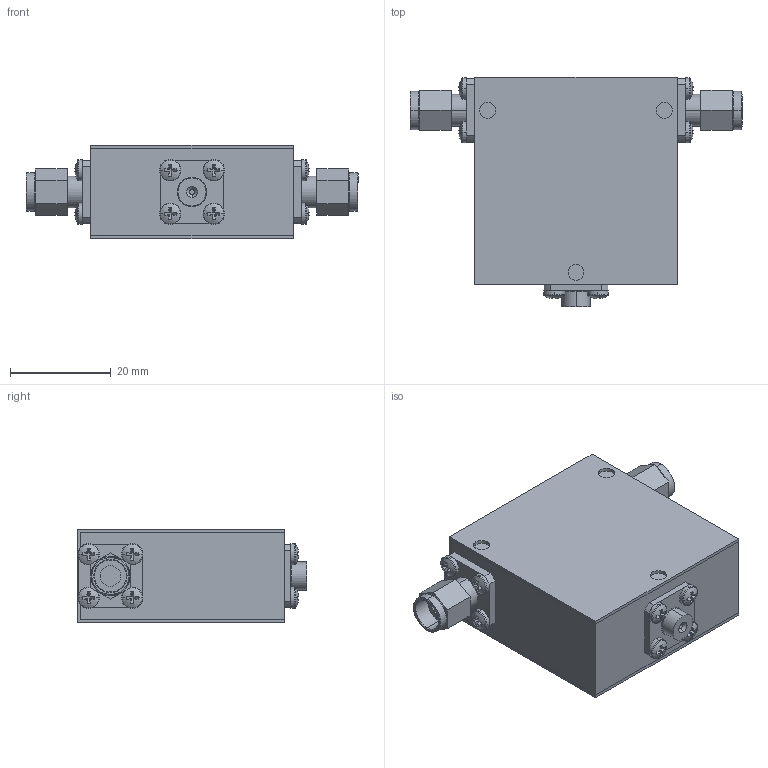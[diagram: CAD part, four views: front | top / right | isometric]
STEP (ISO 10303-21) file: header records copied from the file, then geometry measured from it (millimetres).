
FILE_DESCRIPTION (( 'STEP AP214' ), '1' );
FILE_NAME ('Package 7 Iso MM.step', '2021-12-01T21:02:00', ( '' ), ( '' ), 'SwSTEP 2.0', 'SolidWorks 2016', '' );
FILE_SCHEMA (( 'AUTOMOTIVE_DESIGN' ));
Length unit declared in the file: inch
Products named in the file (6): 030013-1A; Package 7; Package 7 Iso MM; Delta SMA-Male; pan cross head_ai_CR-PHMS 0.086-56x0.125x0.125-N; Package Size 7
Assembly tree (17 placements, depth 2):
  Package 7 Iso MM
    Package Size 7
    Package 7
    pan cross head_ai_CR-PHMS 0.086-56x0.125x0.125-N  x12
    Delta SMA-Male  x2
    030013-1A
Bounding box: 65.89 x 45.59 x 18.54 mm (x, y, z)
Volume: 32190.8 mm3; surface area: 17211 mm2
Topology: 17 solids, 17 shells, 430 faces, 980 edges, 604 vertices
Faces by surface type: plane 246, cylinder 118, torus 38, sphere 24, cone 4
Entity records: 4284 total; most frequent: DIRECTION 774, CARTESIAN_POINT 668, ORIENTED_EDGE 632, EDGE_CURVE 316, AXIS2_PLACEMENT_3D 308, VERTEX_POINT 202, EDGE_LOOP 168, VECTOR 158
